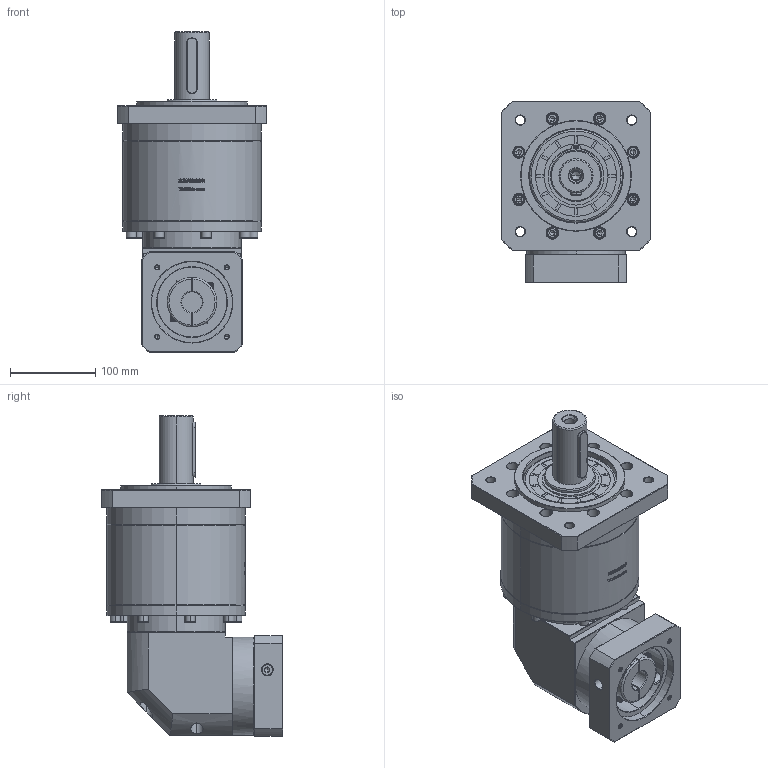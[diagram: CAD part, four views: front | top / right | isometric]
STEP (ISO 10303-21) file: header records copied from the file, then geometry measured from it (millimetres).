
FILE_DESCRIPTION (( 'STEP AP214' ), '1' );
FILE_NAME ('ZFR160A-D40-L3-24-95-115-M6.step', '2023-03-25T01:57:32', ( '' ), ( '' ), 'SwSTEP 2.0', 'SolidWorks 2016', '' );
FILE_SCHEMA (( 'AUTOMOTIVE_DESIGN' ));
Length unit declared in the file: millimetre
Products named in the file (1): ZFR160A-D40-L3-24-95-115-M6
Bounding box: 175 x 212.4 x 376.2 mm (x, y, z)
Volume: 5544251.6 mm3; surface area: 351157.3 mm2
Topology: 6 solids, 6 shells, 2770 faces, 7213 edges, 4615 vertices
Faces by surface type: plane 1372, bspline 501, cylinder 481, cone 370, torus 46
Entity records: 150345 total; most frequent: CARTESIAN_POINT 56295, ORIENTED_EDGE 14318, DIRECTION 11317, EDGE_CURVE 7159, VERTEX_POINT 4615, VECTOR 4481, LINE 4481, AXIS2_PLACEMENT_3D 3418
